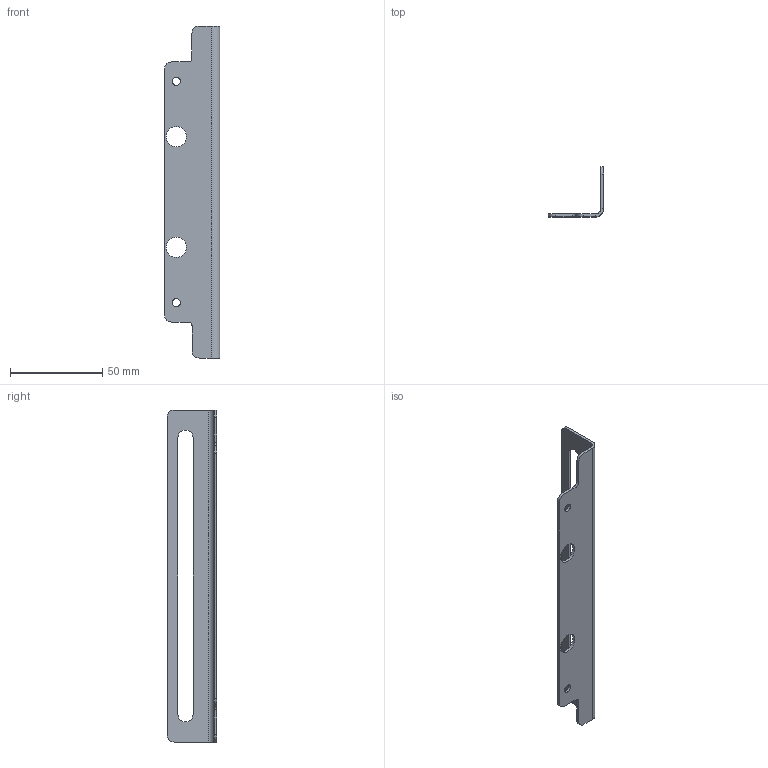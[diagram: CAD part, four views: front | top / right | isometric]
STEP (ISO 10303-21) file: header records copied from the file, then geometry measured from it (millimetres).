
FILE_DESCRIPTION (( 'STEP AP203' ), '1' );
FILE_NAME ('SH7512-Sensorhalter.STEP', '2016-01-26T13:25:06', ( '' ), ( '' ), 'SwSTEP 2.0', 'SolidWorks 2014', '' );
FILE_SCHEMA (( 'CONFIG_CONTROL_DESIGN' ));
Length unit declared in the file: millimetre
Products named in the file (1): SH7512-Sensorhalter
Bounding box: 30 x 27 x 180 mm (x, y, z)
Volume: 11389.7 mm3; surface area: 16503.7 mm2
Topology: 1 solids, 1 shells, 39 faces, 103 edges, 66 vertices
Faces by surface type: cylinder 21, plane 18
Entity records: 1312 total; most frequent: DIRECTION 225, CARTESIAN_POINT 209, ORIENTED_EDGE 206, EDGE_CURVE 103, AXIS2_PLACEMENT_3D 82, VERTEX_POINT 66, LINE 61, VECTOR 61
